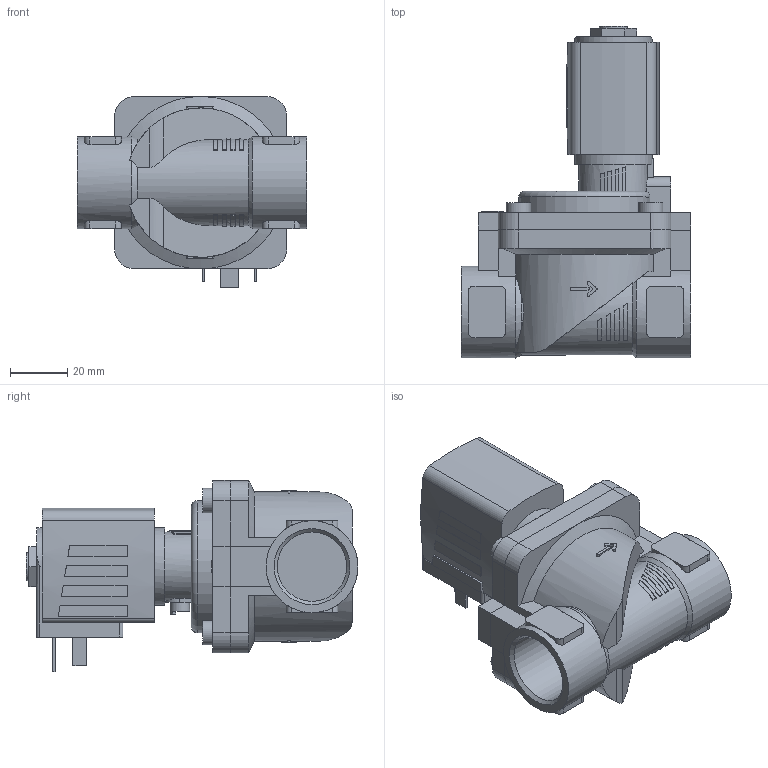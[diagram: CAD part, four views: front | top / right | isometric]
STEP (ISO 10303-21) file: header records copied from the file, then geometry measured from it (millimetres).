
FILE_DESCRIPTION(/* description */ ('STEP AP214'),/* implementation_level */ '2;1');
FILE_NAME(/* name */ '6281-259280-2_2-Way_Solenoid_Valve__Servo-assisted__General_Purpose',/* time_stamp */ '2024-05-27T11:16:01+02:00',/* author */ ('License CC BY-ND 4.0'),/* organization */ ('CADENAS'),/* preprocessor_version */ 'ST-DEVELOPER v19.3',/* originating_system */ 'PARTsolutions',/* authorisation */ ' ');
FILE_SCHEMA (('AUTOMOTIVE_DESIGN {1 0 10303 214 3 1 1}'));
Length unit declared in the file: millimetre
Products named in the file (4): 6281-259280-2/2-Way Solenoid Valve, Servo-assisted, General Purpose; 5281ev201MS2/2-Wege-Magnetventil mit Servomembran-Deckel   ; 6213-20G3/4MS-Gehaeuse-; AC10ex-5NA38-Plan-Coil
Assembly tree (3 placements, depth 2):
  6281-259280-2/2-Way Solenoid Valve, Servo-assisted, General Purpose
    5281ev201MS2/2-Wege-Magnetventil mit Servomembran-Deckel   
    6213-20G3/4MS-Gehaeuse-
    AC10ex-5NA38-Plan-Coil
Bounding box: 80 x 115.5 x 66.5 mm (x, y, z)
Volume: 197115.2 mm3; surface area: 42384.2 mm2
Topology: 3 solids, 3 shells, 350 faces, 893 edges, 590 vertices
Faces by surface type: plane 243, cylinder 91, cone 15, torus 1
Full cylindrical faces by diameter (mm): 2.013 x1, 6.8 x1, 8.5 x4, 9.74 x1, 24.117 x2, 27 x1, 32 x1
Entity records: 11969 total; most frequent: CARTESIAN_POINT 2074, DIRECTION 1776, ORIENTED_EDGE 1742, EDGE_CURVE 871, AXIS2_PLACEMENT_3D 620, VERTEX_POINT 582, LINE 536, VECTOR 536
